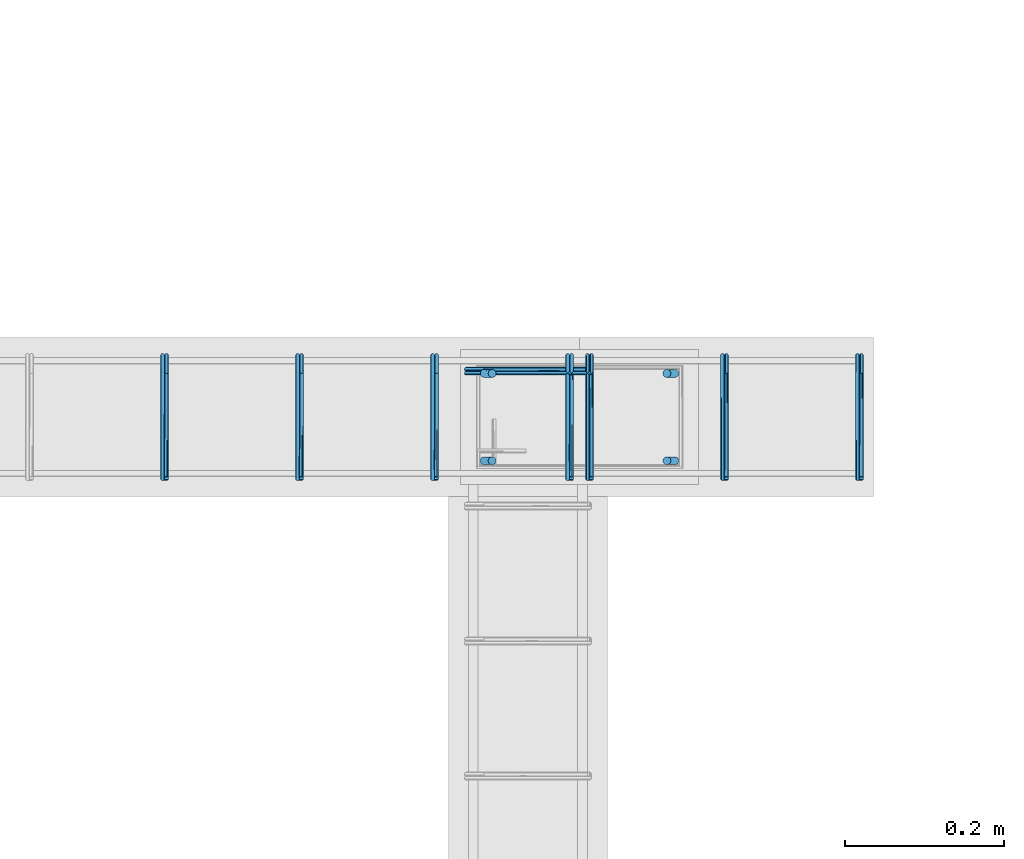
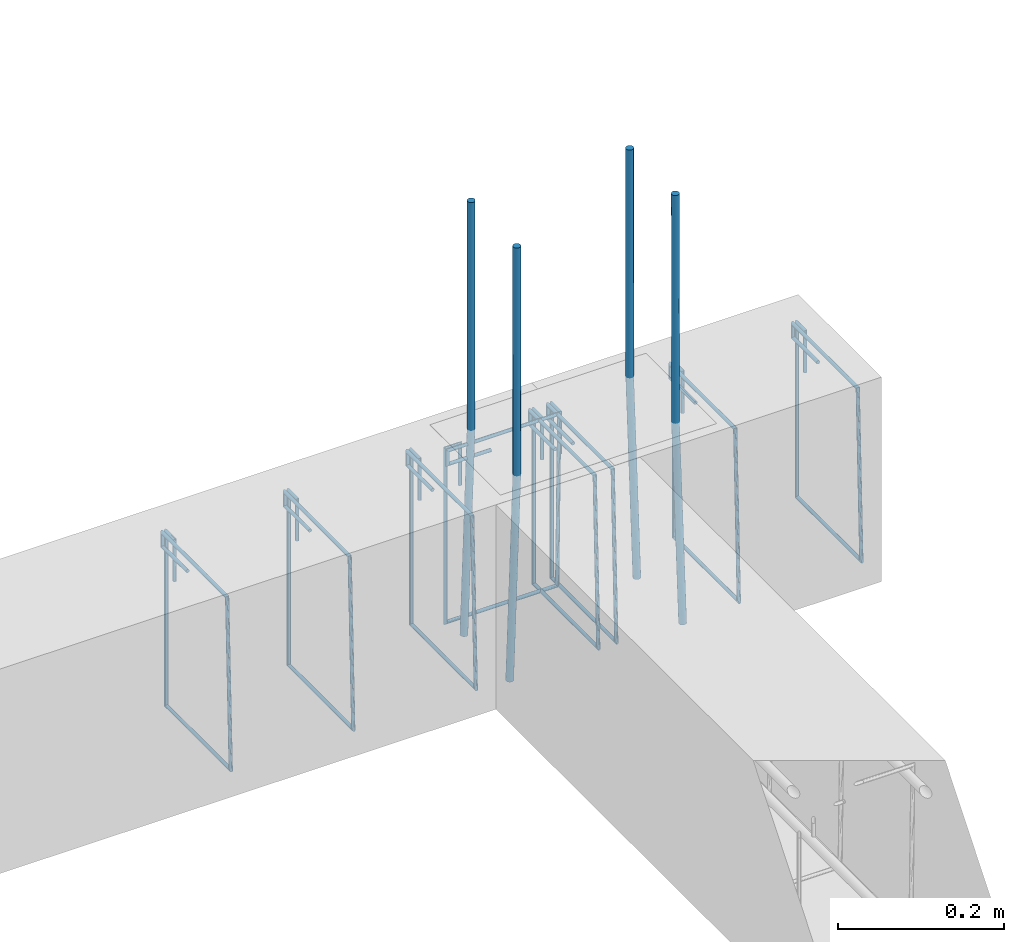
# One storey, part 102 of 150: 12 reinforcing bars.
"""IFC4 building model written with IfcOpenShell, lengths in centimetres."""

from ifc_helpers import new_model, entity, si_unit, derived_unit, frame, origin_with_axes, place, context, project, spatial, source, transform, mapped, element, save


model = new_model("IFC4")

# Units and contexts
model_context = context("Model", 3, precision=1e-05, world=origin_with_axes(), identifier="Body")
ifc_project = project(units=[si_unit("LENGTHUNIT", "METRE", prefix="CENTI"), si_unit("VOLUMEUNIT", "CUBIC_METRE"), si_unit("AREAUNIT", "SQUARE_METRE"), si_unit("POWERUNIT", "WATT"), si_unit("LUMINOUSFLUXUNIT", "LUMEN"), si_unit("ELECTRICCURRENTUNIT", "AMPERE"), si_unit("PRESSUREUNIT", "PASCAL", prefix="KILO"), si_unit("MASSUNIT", "GRAM", prefix="KILO"), si_unit("PLANEANGLEUNIT", "RADIAN"), derived_unit("VOLUMETRICFLOWRATEUNIT", [(si_unit("LENGTHUNIT", "METRE"), 3), (si_unit("TIMEUNIT", "SECOND"), -1)])], contexts=[model_context])

# Site, building, storey
site_placement = place(None, frame((-4000.0, 0.0, 0.0), z_axis=(0.0, 0.0, 1.0), x_axis=(1.0, 0.0, 0.0)))
site = spatial("IfcSite", under=ifc_project, at=site_placement, Name="PADRÃO")
building_placement = place(site_placement, frame((0.0, 0.0, -14.0)))
building = spatial("IfcBuilding", under=site, at=building_placement, Name="CRECHE PRÉ-ESCOLA TIPO 2")
placement = place(building_placement, origin_with_axes())
storey_placement = place(placement, frame((0.0, 0.0, 30.0), z_axis=(0.0, 0.0, 1.0), x_axis=(1.0, 0.0, 0.0)))
storey = spatial("IfcBuildingStorey", under=building, at=storey_placement, Name="VIGA BALDRAME", CompositionType="ELEMENT", Elevation=16.0)

# Reinforcing bars
shared_shape_1 = source(origin_with_axes(), model_context, "Body", "AdvancedSweptSolid", [
    entity("IfcSweptDiskSolid", entity("IfcCompositeCurve", [entity("IfcCompositeCurveSegment", "CONTINUOUS", True, entity("IfcPolyline", [entity("IfcCartesianPoint", [2.0, -6.0, 0.0]), entity("IfcCartesianPoint", [2.0, 0.0, 0.0])])), entity("IfcCompositeCurveSegment", "CONTINUOUS", True, entity("IfcPolyline", [entity("IfcCartesianPoint", [2.0, 0.0, 0.0]), entity("IfcCartesianPoint", [0.0, 0.0, 0.0])])), entity("IfcCompositeCurveSegment", "CONTINUOUS", True, entity("IfcPolyline", [entity("IfcCartesianPoint", [0.0, 0.0, 0.0]), entity("IfcCartesianPoint", [0.0, -25.5, 0.0])])), entity("IfcCompositeCurveSegment", "CONTINUOUS", True, entity("IfcPolyline", [entity("IfcCartesianPoint", [0.0, -25.5, 0.0]), entity("IfcCartesianPoint", [15.5, -25.5, 0.0])])), entity("IfcCompositeCurveSegment", "CONTINUOUS", True, entity("IfcPolyline", [entity("IfcCartesianPoint", [15.5, -25.5, 0.0]), entity("IfcCartesianPoint", [15.5, 0.0, 0.5])])), entity("IfcCompositeCurveSegment", "CONTINUOUS", True, entity("IfcPolyline", [entity("IfcCartesianPoint", [15.5, 0.0, 0.5]), entity("IfcCartesianPoint", [0.0, 0.0, 0.5])])), entity("IfcCompositeCurveSegment", "CONTINUOUS", True, entity("IfcPolyline", [entity("IfcCartesianPoint", [0.0, 0.0, 0.5]), entity("IfcCartesianPoint", [0.0, -2.0, 0.5])])), entity("IfcCompositeCurveSegment", "CONTINUOUS", True, entity("IfcPolyline", [entity("IfcCartesianPoint", [0.0, -2.0, 0.5]), entity("IfcCartesianPoint", [6.0, -2.0, 0.5])]))], False), 0.25),
])
for number, where, z_axis, x_axis, name in (
    (1, (3320.5, 1822.77, -2.25), (-1.0, 0.0, 0.0), (0.0, -1.0, 0.0), "V131 - Estribo"),
    (2, (3337.5, 1822.77, -2.25), (-1.0, 0.0, 0.0), (0.0, -1.0, 0.0), "V131 - Estribo"),
    (3, (3354.5, 1822.77, -2.25), (-1.0, 0.0, 0.0), (0.0, -1.0, 0.0), "V131 - Estribo"),
    (4, (3371.5, 1822.77, -2.25), (-1.0, 0.0, 0.0), (0.0, -1.0, 0.0), "V131 - Estribo"),
):
    element("IfcReinforcingBar", number, at=place(storey_placement, frame(where, z_axis=z_axis, x_axis=x_axis)), inside=storey, Name=name, BarLength=0.0, CrossSectionArea=1.9634954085e-05, NominalDiameter=0.5, PredefinedType="MAIN", context=model_context, shape_type="MappedRepresentation", body=[
        mapped(shared_shape_1, transform((0.0, 0.0, 0.0), scale=1.0)),
    ])
shared_shape_2 = source(origin_with_axes(), model_context, "Body", "AdvancedSweptSolid", [
    entity("IfcSweptDiskSolid", entity("IfcCompositeCurve", [entity("IfcCompositeCurveSegment", "CONTINUOUS", True, entity("IfcPolyline", [entity("IfcCartesianPoint", [2.0, -6.0, 0.0]), entity("IfcCartesianPoint", [2.0, 0.0, 0.0])])), entity("IfcCompositeCurveSegment", "CONTINUOUS", True, entity("IfcPolyline", [entity("IfcCartesianPoint", [2.0, 0.0, 0.0]), entity("IfcCartesianPoint", [0.0, 0.0, 0.0])])), entity("IfcCompositeCurveSegment", "CONTINUOUS", True, entity("IfcPolyline", [entity("IfcCartesianPoint", [0.0, 0.0, 0.0]), entity("IfcCartesianPoint", [0.0, -25.5, 0.0])])), entity("IfcCompositeCurveSegment", "CONTINUOUS", True, entity("IfcPolyline", [entity("IfcCartesianPoint", [0.0, -25.5, 0.0]), entity("IfcCartesianPoint", [15.5, -25.5, 0.0])])), entity("IfcCompositeCurveSegment", "CONTINUOUS", True, entity("IfcPolyline", [entity("IfcCartesianPoint", [15.5, -25.5, 0.0]), entity("IfcCartesianPoint", [15.5, 0.0, 0.5])])), entity("IfcCompositeCurveSegment", "CONTINUOUS", True, entity("IfcPolyline", [entity("IfcCartesianPoint", [15.5, 0.0, 0.5]), entity("IfcCartesianPoint", [0.0, 0.0, 0.5])])), entity("IfcCompositeCurveSegment", "CONTINUOUS", True, entity("IfcPolyline", [entity("IfcCartesianPoint", [0.0, 0.0, 0.5]), entity("IfcCartesianPoint", [0.0, -2.0, 0.5])])), entity("IfcCompositeCurveSegment", "CONTINUOUS", True, entity("IfcPolyline", [entity("IfcCartesianPoint", [0.0, -2.0, 0.5]), entity("IfcCartesianPoint", [6.0, -2.0, 0.5])]))], False), 0.25),
])
for number, where, z_axis, x_axis, name in (
    (5, (3374.0, 1822.77, -2.25), (-1.0, 0.0, 0.0), (0.0, -1.0, 0.0), "V131 - Estribo"),
    (6, (3391.0, 1822.77, -2.25), (-1.0, 0.0, 0.0), (0.0, -1.0, 0.0), "V131 - Estribo"),
    (7, (3408.0, 1822.77, -2.25), (-1.0, 0.0, 0.0), (0.0, -1.0, 0.0), "V131 - Estribo"),
):
    element("IfcReinforcingBar", number, at=place(storey_placement, frame(where, z_axis=z_axis, x_axis=x_axis)), inside=storey, Name=name, BarLength=0.0, CrossSectionArea=1.9634954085e-05, NominalDiameter=0.5, PredefinedType="MAIN", context=model_context, shape_type="MappedRepresentation", body=[
        mapped(shared_shape_2, transform((0.0, 0.0, 0.0), scale=1.0)),
    ])
shared_shape_3 = source(origin_with_axes(), model_context, "Body", "AdvancedSweptSolid", [
    entity("IfcSweptDiskSolid", entity("IfcCompositeCurve", [entity("IfcCompositeCurveSegment", "CONTINUOUS", True, entity("IfcPolyline", [entity("IfcCartesianPoint", [2.0, -6.0, 0.0]), entity("IfcCartesianPoint", [2.0, 0.0, 0.0])])), entity("IfcCompositeCurveSegment", "CONTINUOUS", True, entity("IfcPolyline", [entity("IfcCartesianPoint", [2.0, 0.0, 0.0]), entity("IfcCartesianPoint", [0.0, 0.0, 0.0])])), entity("IfcCompositeCurveSegment", "CONTINUOUS", True, entity("IfcPolyline", [entity("IfcCartesianPoint", [0.0, 0.0, 0.0]), entity("IfcCartesianPoint", [0.0, -25.5, 0.0])])), entity("IfcCompositeCurveSegment", "CONTINUOUS", True, entity("IfcPolyline", [entity("IfcCartesianPoint", [0.0, -25.5, 0.0]), entity("IfcCartesianPoint", [15.5, -25.5, 0.0])])), entity("IfcCompositeCurveSegment", "CONTINUOUS", True, entity("IfcPolyline", [entity("IfcCartesianPoint", [15.5, -25.5, 0.0]), entity("IfcCartesianPoint", [15.5, 0.0, 0.5])])), entity("IfcCompositeCurveSegment", "CONTINUOUS", True, entity("IfcPolyline", [entity("IfcCartesianPoint", [15.5, 0.0, 0.5]), entity("IfcCartesianPoint", [0.0, 0.0, 0.5])])), entity("IfcCompositeCurveSegment", "CONTINUOUS", True, entity("IfcPolyline", [entity("IfcCartesianPoint", [0.0, 0.0, 0.5]), entity("IfcCartesianPoint", [0.0, -2.0, 0.5])])), entity("IfcCompositeCurveSegment", "CONTINUOUS", True, entity("IfcPolyline", [entity("IfcCartesianPoint", [0.0, -2.0, 0.5]), entity("IfcCartesianPoint", [6.0, -2.0, 0.5])]))], False), 0.25),
])
reinforcing_bar_1_placement = place(storey_placement, frame((3358.25, 1821.055, -2.25), z_axis=(0.0, -1.0, 0.0), x_axis=(1.0, 0.0, 0.0)))
element("IfcReinforcingBar", 8, at=reinforcing_bar_1_placement, inside=storey, Name="V226 - Estribo", BarLength=0.0, CrossSectionArea=1.9634954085e-05, NominalDiameter=0.5, PredefinedType="MAIN", context=model_context, shape_type="MappedRepresentation", body=[
    mapped(shared_shape_3, transform((0.0, 0.0, 0.0), scale=1.0)),
])
reinforcing_bar_2_placement = place(storey_placement, frame((3361.00013877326, 1809.52, 33.3573001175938), z_axis=(0.0, 0.0, 1.0), x_axis=(1.0, 0.0, 0.0)))
element("IfcReinforcingBar", 9, at=reinforcing_bar_2_placement, inside=storey, Name="P97 - Longitudinal", BarLength=0.0, CrossSectionArea=7.853981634e-05, NominalDiameter=1.0, PredefinedType="MAIN", context=model_context, shape_type="AdvancedSweptSolid", body=[
    entity("IfcSweptDiskSolid", entity("IfcCompositeCurve", [entity("IfcCompositeCurveSegment", "CONTINUOUS", True, entity("IfcPolyline", [entity("IfcCartesianPoint", [-0.500138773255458, 0.0, -63.3573001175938]), entity("IfcCartesianPoint", [0.499861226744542, 0.0, -33.3573001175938])])), entity("IfcCompositeCurveSegment", "CONTINUOUS", True, entity("IfcPolyline", [entity("IfcCartesianPoint", [0.499861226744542, 0.0, -33.3573001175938]), entity("IfcCartesianPoint", [0.499861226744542, 0.0, 0.0])]))], False), 0.5),
])
for number, where, z_axis, x_axis, name in (
    (10, (3383.99986122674, 1820.52, 33.3573001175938), (0.0, 0.0, 1.0), (1.0, 0.0, 0.0), "P97 - Longitudinal"),
    (11, (3383.99986122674, 1809.52, 33.3573001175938), (0.0, 0.0, 1.0), (1.0, 0.0, 0.0), "P97 - Longitudinal"),
):
    element("IfcReinforcingBar", number, at=place(storey_placement, frame(where, z_axis=z_axis, x_axis=x_axis)), inside=storey, Name=name, BarLength=0.0, CrossSectionArea=7.853981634e-05, NominalDiameter=1.0, PredefinedType="MAIN", context=model_context, shape_type="AdvancedSweptSolid", body=[
        entity("IfcSweptDiskSolid", entity("IfcCompositeCurve", [entity("IfcCompositeCurveSegment", "CONTINUOUS", True, entity("IfcPolyline", [entity("IfcCartesianPoint", [0.500138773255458, 0.0, -63.3573001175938]), entity("IfcCartesianPoint", [-0.499861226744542, 0.0, -33.3573001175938])])), entity("IfcCompositeCurveSegment", "CONTINUOUS", True, entity("IfcPolyline", [entity("IfcCartesianPoint", [-0.499861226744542, 0.0, -33.3573001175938]), entity("IfcCartesianPoint", [-0.499861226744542, 0.0, 0.0])]))], False), 0.5),
    ])
reinforcing_bar_3_placement = place(storey_placement, frame((3361.00013877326, 1820.52, 33.3573001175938), z_axis=(0.0, 0.0, 1.0), x_axis=(1.0, 0.0, 0.0)))
element("IfcReinforcingBar", 12, at=reinforcing_bar_3_placement, inside=storey, Name="P97 - Longitudinal", BarLength=0.0, CrossSectionArea=7.853981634e-05, NominalDiameter=1.0, PredefinedType="MAIN", context=model_context, shape_type="AdvancedSweptSolid", body=[
    entity("IfcSweptDiskSolid", entity("IfcCompositeCurve", [entity("IfcCompositeCurveSegment", "CONTINUOUS", True, entity("IfcPolyline", [entity("IfcCartesianPoint", [-0.500138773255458, 0.0, -63.3573001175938]), entity("IfcCartesianPoint", [0.499861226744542, 0.0, -33.3573001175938])])), entity("IfcCompositeCurveSegment", "CONTINUOUS", True, entity("IfcPolyline", [entity("IfcCartesianPoint", [0.499861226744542, 0.0, -33.3573001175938]), entity("IfcCartesianPoint", [0.499861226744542, 0.0, 0.0])]))], False), 0.5),
])

save(model, "model.ifc")
